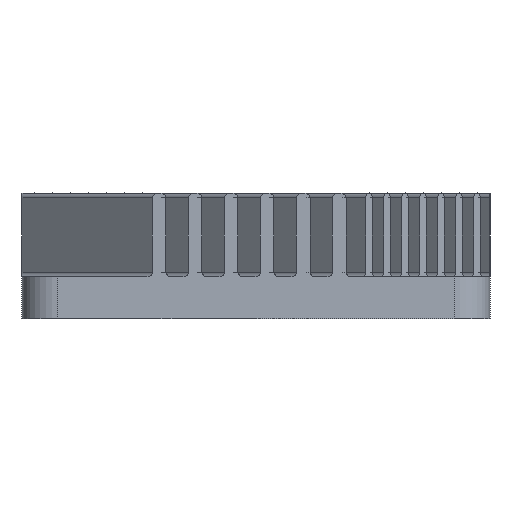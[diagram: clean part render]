
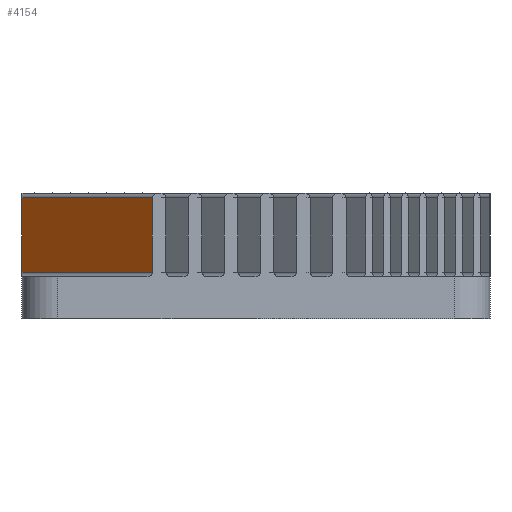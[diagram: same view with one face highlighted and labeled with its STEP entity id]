
A CAD part, left-side view. The second image highlights one B-rep face of the part: STEP entity #4154.
In plain terms, the highlighted planar face has unit normal (-0.707, 0.707, 0).
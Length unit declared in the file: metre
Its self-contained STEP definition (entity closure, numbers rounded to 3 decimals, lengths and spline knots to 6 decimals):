
#1218=ORIENTED_EDGE('',*,*,#1604,.T.);
#1219=ORIENTED_EDGE('',*,*,#2191,.T.);
#1220=ORIENTED_EDGE('',*,*,#1769,.F.);
#1221=ORIENTED_EDGE('',*,*,#2192,.T.);
#1604=EDGE_CURVE('',#2234,#2233,#2653,.T.);
#1769=EDGE_CURVE('',#2396,#2397,#2736,.T.);
#2191=EDGE_CURVE('',#2233,#2397,#3055,.F.);
#2192=EDGE_CURVE('',#2396,#2234,#3056,.T.);
#2233=VERTEX_POINT('',#5980);
#2234=VERTEX_POINT('',#5982);
#2396=VERTEX_POINT('',#6309);
#2397=VERTEX_POINT('',#6311);
#2653=LINE('',#5981,#3067);
#2736=LINE('',#6310,#3150);
#3055=LINE('',#7103,#3469);
#3056=LINE('',#7104,#3470);
#3067=VECTOR('',#4701,1.);
#3150=VECTOR('',#4950,1.);
#3469=VECTOR('',#5725,1.);
#3470=VECTOR('',#5726,1.);
#3610=EDGE_LOOP('',(#1218,#1219,#1220,#1221));
#3835=FACE_BOUND('',#3610,.T.);
#4012=PLANE('',#4567);
#4154=ADVANCED_FACE('',(#3835),#4012,.T.);
#4567=AXIS2_PLACEMENT_3D('',#7102,#5723,#5724);
#4701=DIRECTION('',(0.,0.,-1.));
#4950=DIRECTION('',(0.,0.,-1.));
#5723=DIRECTION('',(-0.707,0.707,0.));
#5724=DIRECTION('',(-0.707,-0.707,0.));
#5725=DIRECTION('',(0.707,0.707,0.));
#5726=DIRECTION('',(0.707,0.707,0.));
#5980=CARTESIAN_POINT('',(-0.035207,0.0195,0.0039));
#5981=CARTESIAN_POINT('',(-0.035207,0.0195,0.0105));
#5982=CARTESIAN_POINT('',(-0.035207,0.0195,0.0101));
#6309=CARTESIAN_POINT('',(-0.046076,0.008631,0.0101));
#6310=CARTESIAN_POINT('',(-0.046076,0.008631,0.0105));
#6311=CARTESIAN_POINT('',(-0.046076,0.008631,0.0039));
#7102=CARTESIAN_POINT('',(-0.033925,0.020783,0.0105));
#7103=CARTESIAN_POINT('',(-0.046076,0.008631,0.0039));
#7104=CARTESIAN_POINT('',(-0.033925,0.020783,0.0101));
